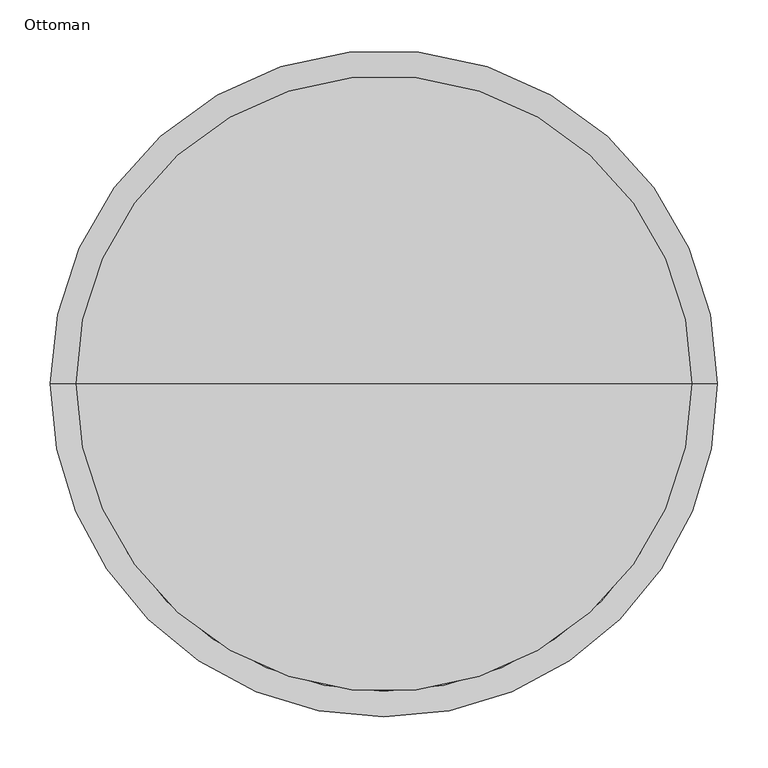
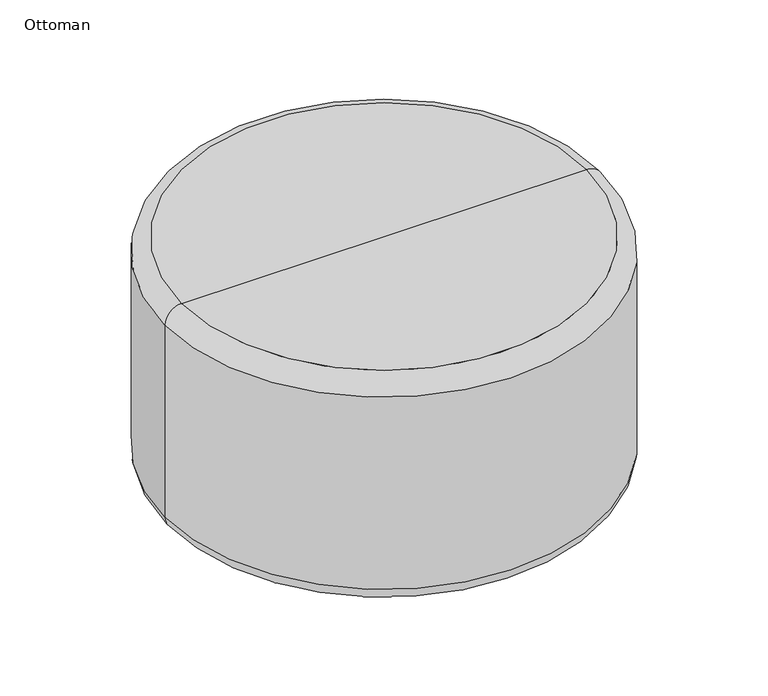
"""IFC4 building model written with IfcOpenShell, lengths in millimetres: furniture geometry, SmithSystem_AM_Seating_Education_Flowform_Ottoman_Circle : Ottoman."""

from ifc_helpers import new_model, si_unit, point, frame, origin, place, context, project, spatial, circle_curve, ellipse_curve, trimmed, source, transform, mapped, element, save
from ifc_brep_helpers import plane_surface, cylinder_surface, revolved_surface, advanced_brep


def ottoman_3f72f61b(model_context):
    return source(origin(), model_context, "Body", "AdvancedBrep", [
        advanced_brep(
        [(304.8797674, 0.0, 355.3785988), (-304.8797674, 0.0, 355.3785988), (0.0, 0.0, 355.3785988), (330.2797674, 0.0, 329.9785988), (-330.2797674, 0.0, 329.9785988), (330.2797674, 0.0, 23.7622777), (-330.2797674, 0.0, 23.7622777), (306.5174897, 0.0, 0.0), (-306.5174897, 0.0, 0.0), (0.0, 0.0, 0.0)],
        [
            (0, 1, circle_curve(frame((0.0, 0.0, 355.3785988), z_axis=(0.0, 0.0, 1.0), x_axis=(-1.0, 0.0, 0.0)), 304.8797674)),
            (1, 2),
            (2, 0),
            (1, 0, circle_curve(frame((0.0, 0.0, 355.3785988), z_axis=(0.0, 0.0, 1.0), x_axis=(-1.0, 0.0, 0.0)), 304.8797674)),
            (3, 4, circle_curve(frame((0.0, 0.0, 329.9785988), z_axis=(0.0, 0.0, 1.0), x_axis=(-1.0, 0.0, 0.0)), 330.2797674)),
            (4, 1, circle_curve(frame((-304.8797674, 0.0, 329.9785988), z_axis=(0.0, 1.0, 0.0), x_axis=(1.0, 0.0, 0.0)), 25.4)),
            (0, 3, circle_curve(frame((304.8797674, 0.0, 329.9785988), z_axis=(0.0, 1.0, 0.0), x_axis=(-1.0, 0.0, 0.0)), 25.4)),
            (4, 3, circle_curve(frame((0.0, 0.0, 329.9785988), z_axis=(0.0, 0.0, 1.0), x_axis=(-1.0, 0.0, 0.0)), 330.2797674)),
            (5, 6, circle_curve(frame((0.0, 0.0, 23.7622777), z_axis=(0.0, 0.0, 1.0), x_axis=(-1.0, 0.0, 0.0)), 330.2797674)),
            (6, 4),
            (3, 5),
            (6, 5, circle_curve(frame((0.0, 0.0, 23.7622777), z_axis=(0.0, 0.0, 1.0), x_axis=(-1.0, 0.0, 0.0)), 330.2797674)),
            (7, 8, circle_curve(frame((0.0, 0.0, 0.0), z_axis=(0.0, 0.0, 1.0), x_axis=(-1.0, 0.0, 0.0)), 306.5174897)),
            (8, 6, circle_curve(frame((-306.5174897, 0.0, 23.7622777), z_axis=(0.0, 1.0, 0.0), x_axis=(1.0, 0.0, 0.0)), 23.7622777)),
            (5, 7, circle_curve(frame((306.5174897, 0.0, 23.7622777), z_axis=(0.0, 1.0, 0.0), x_axis=(-1.0, 0.0, 0.0)), 23.7622777)),
            (8, 7, circle_curve(frame((0.0, 0.0, 0.0), z_axis=(0.0, 0.0, 1.0), x_axis=(-1.0, 0.0, 0.0)), 306.5174897)),
            (9, 8),
            (7, 9),
        ],
        [
            plane_surface(frame((0.0, 0.0, 355.3785988), z_axis=(0.0, 0.0, 1.0), x_axis=(-1.0, 0.0, 0.0))),
            revolved_surface(trimmed(ellipse_curve(frame((-304.8797674, 0.0, 329.9785988), z_axis=(0.0, -1.0, 0.0), x_axis=(1.0, 0.0, 0.0)), 25.4, 25.4), [point((-304.8797674, 0.0, 355.3785988))], [point((-330.2797674, 0.0, 329.9785988))], True, "CARTESIAN"), (0.0, 0.0, -76.2), (0.0, 0.0, -1.0)),
            cylinder_surface(frame((0.0, 0.0, -76.2), z_axis=(0.0, 0.0, -1.0), x_axis=(-1.0, 0.0, 0.0)), 330.2797674),
            revolved_surface(trimmed(ellipse_curve(frame((-306.5174897, 0.0, 23.7622777), z_axis=(0.0, -1.0, 0.0), x_axis=(1.0, 0.0, 0.0)), 23.7622777, 23.7622777), [point((-330.2797674, 0.0, 23.7622777))], [point((-306.5174897, 0.0, 0.0))], True, "CARTESIAN"), (0.0, 0.0, -76.2), (0.0, 0.0, -1.0)),
            plane_surface(frame((0.0, 0.0, 0.0), z_axis=(0.0, 0.0, -1.0), x_axis=(-1.0, 0.0, 0.0))),
        ],
        [
            (0, [[1, 2, 3]]),
            (0, [[4, -3, -2]]),
            (1, [[5, 6, -1, 7]]),
            (1, [[8, -7, -4, -6]]),
            (2, [[9, 10, -5, 11]]),
            (2, [[12, -11, -8, -10]]),
            (3, [[13, 14, -9, 15]]),
            (3, [[16, -15, -12, -14]]),
            (4, [[17, -13, 18]]),
            (4, [[-18, -16, -17]]),
        ],
    ),
    ])


if __name__ == "__main__":
    model = new_model("IFC4")
    model_context = context("Model", 3, world=origin())
    ifc_project = project(units=[si_unit("LENGTHUNIT", "METRE", prefix="MILLI")], contexts=[model_context])
    site = spatial("IfcSite", under=ifc_project)
    building = spatial("IfcBuilding", under=site)
    placement = place(None, origin())
    ottoman_shape = ottoman_3f72f61b(model_context)
    element("IfcFurniture", 1, ObjectType="SmithSystem_AM_Seating_Education_Flowform_Ottoman_Circle : Ottoman", at=placement, inside=building, context=model_context, shape_type="MappedRepresentation", body=[
        mapped(ottoman_shape, transform((0.0, 0.0, 0.0), x_axis=(1.0, 0.0, 0.0), y_axis=(0.0, 1.0, 0.0), z_axis=(0.0, 0.0, 1.0))),
    ])
    save(model, "model.ifc")
